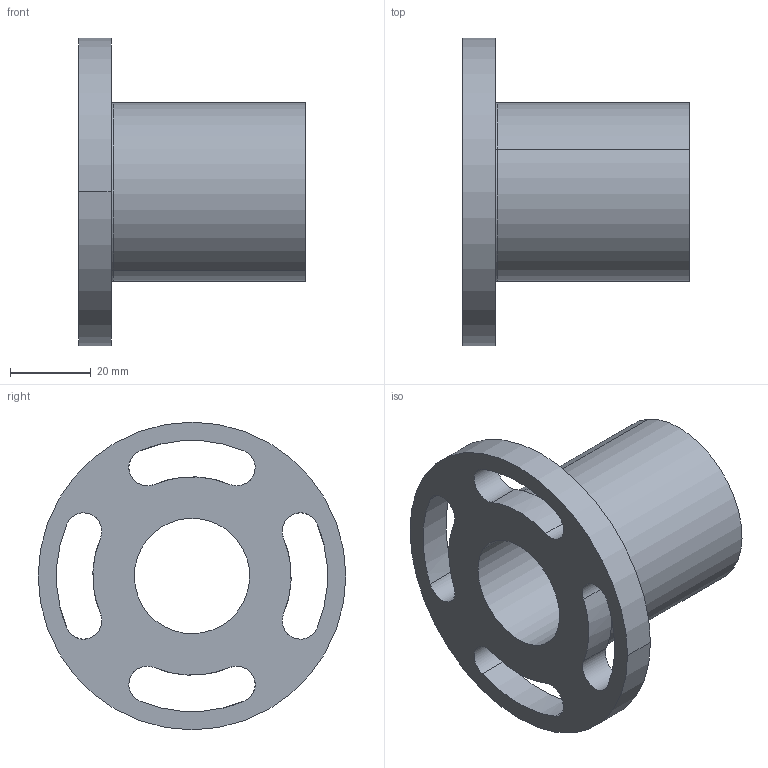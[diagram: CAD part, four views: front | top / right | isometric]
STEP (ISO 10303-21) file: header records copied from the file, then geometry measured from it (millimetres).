
FILE_DESCRIPTION(('CATIA V5 STEP Exchange'),'2;1');
FILE_NAME('C:\Users\aa\Documents\이댈\TM\CTM\CTM28.stp','2020-03-26T08:40:21+00:00',('none'),('none'),'CATIA Version 5 Release 20 SP 7 (IN-10)','CATIA V5 STEP AP203','none');
FILE_SCHEMA(('CONFIG_CONTROL_DESIGN'));
Length unit declared in the file: millimetre
Products named in the file (1): CTM28
Bounding box: 56 x 76 x 76 mm (x, y, z)
Volume: 64964.6 mm3; surface area: 21540.2 mm2
Topology: 1 solids, 1 shells, 27 faces, 70 edges, 46 vertices
Faces by surface type: cylinder 22, plane 3, torus 2
Entity records: 1206 total; most frequent: CARTESIAN_POINT 532, ORIENTED_EDGE 140, DIRECTION 98, EDGE_CURVE 70, AXIS2_PLACEMENT_3D 50, VERTEX_POINT 46, EDGE_LOOP 38, ADVANCED_FACE 27
